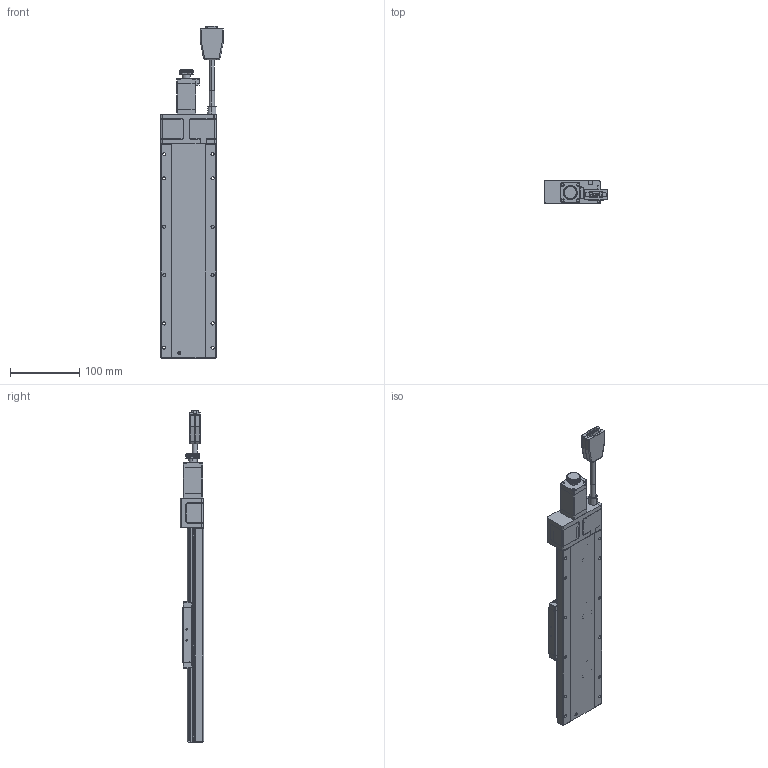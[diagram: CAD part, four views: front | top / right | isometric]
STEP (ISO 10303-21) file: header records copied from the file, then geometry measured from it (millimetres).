
FILE_DESCRIPTION (( 'STEP AP203' ), '1' );
FILE_NAME ('CXN80200-S2?N.STEP', '2023-09-28T06:00:59', ( '' ), ( '' ), 'SwSTEP 2.0', 'SolidWorks 2019', '' );
FILE_SCHEMA (( 'CONFIG_CONTROL_DESIGN' ));
Length unit declared in the file: millimetre
Products named in the file (5): CXN80_GMT; CXN80200-01-10-2^CXN80200-S2?N(2023新版)_defeature_GMT; Group2^CXN80200-S2?N(2023新版)_defeature_GMT; Group1^CXN80200-S2?N(2023新版)_defeature_GMT; CXN80200-S2?N
Assembly tree (4 placements, depth 2):
  CXN80200-S2?N
    Group1^CXN80200-S2?N(2023新版)_defeature_GMT
    Group2^CXN80200-S2?N(2023新版)_defeature_GMT
    CXN80200-01-10-2^CXN80200-S2?N(2023新版)_defeature_GMT
    CXN80_GMT
Bounding box: 90.5 x 33.5 x 480.6 mm (x, y, z)
Volume: 60108.8 mm3; surface area: 171505.5 mm2
Topology: 29 solids, 32 shells, 4826 faces, 12453 edges, 7679 vertices
Faces by surface type: plane 1856, cylinder 1353, cone 546, torus 454, bspline 431, sphere 186
Entity records: 166652 total; most frequent: CARTESIAN_POINT 51421, ORIENTED_EDGE 24448, DIRECTION 23724, EDGE_CURVE 12224, AXIS2_PLACEMENT_3D 8851, VERTEX_POINT 7636, LINE 6022, VECTOR 6022
